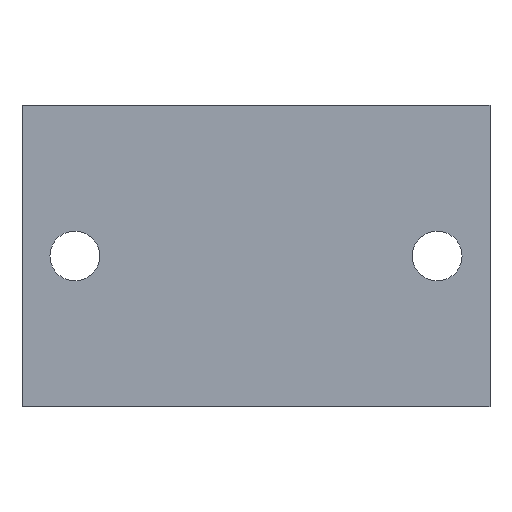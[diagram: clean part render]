
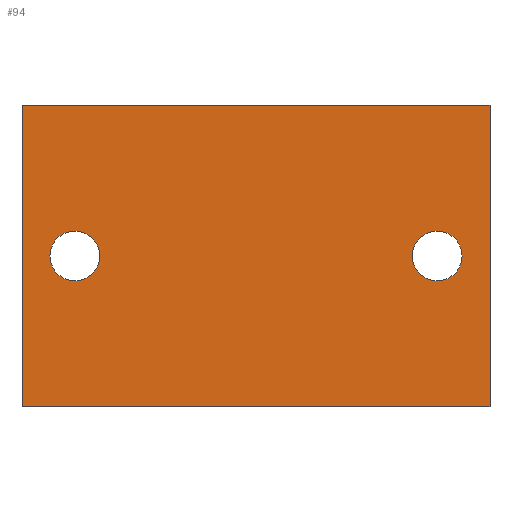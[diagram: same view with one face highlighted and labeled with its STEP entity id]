
A CAD part, front view. The second image highlights one B-rep face of the part: STEP entity #94.
In plain terms, the highlighted planar face has unit normal (0, -1, 0).
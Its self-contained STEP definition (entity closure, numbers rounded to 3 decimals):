
#2 = FACE_BOUND ( 'NONE', #689, .T. ) ;
#4 = DIRECTION ( 'NONE',  ( 0., -1., 0. ) ) ;
#6 = ORIENTED_EDGE ( 'NONE', *, *, #858, .T. ) ;
#10 = LINE ( 'NONE', #75, #17 ) ;
#11 = FACE_OUTER_BOUND ( 'NONE', #29, .T. ) ;
#17 = VECTOR ( 'NONE', #347, 1000. ) ;
#29 = EDGE_LOOP ( 'NONE', ( #6, #77, #419, #745 ) ) ;
#40 = AXIS2_PLACEMENT_3D ( 'NONE', #853, #659, #380 ) ;
#44 = CARTESIAN_POINT ( 'NONE',  ( 31., -27., -20. ) ) ;
#59 = DIRECTION ( 'NONE',  ( 0., 0., -1. ) ) ;
#72 = DIRECTION ( 'NONE',  ( 0., 0., -1. ) ) ;
#75 = CARTESIAN_POINT ( 'NONE',  ( -31., -27., -20. ) ) ;
#77 = ORIENTED_EDGE ( 'NONE', *, *, #761, .F. ) ;
#86 = CIRCLE ( 'NONE', #40, 3.3 ) ;
#91 = EDGE_CURVE ( 'NONE', #236, #358, #678, .T. ) ;
#94 = ADVANCED_FACE ( 'NONE', ( #2, #682, #11 ), #287, .F. ) ;
#117 = CARTESIAN_POINT ( 'NONE',  ( 24., -27., 3.3 ) ) ;
#149 = VERTEX_POINT ( 'NONE', #359 ) ;
#163 = AXIS2_PLACEMENT_3D ( 'NONE', #456, #467, #59 ) ;
#166 = CARTESIAN_POINT ( 'NONE',  ( -31., -27., -20. ) ) ;
#184 = LINE ( 'NONE', #194, #195 ) ;
#194 = CARTESIAN_POINT ( 'NONE',  ( 31., -27., 20. ) ) ;
#195 = VECTOR ( 'NONE', #803, 1000. ) ;
#199 = CIRCLE ( 'NONE', #366, 3.3 ) ;
#204 = CARTESIAN_POINT ( 'NONE',  ( -31., -27., 20. ) ) ;
#236 = VERTEX_POINT ( 'NONE', #581 ) ;
#237 = EDGE_CURVE ( 'NONE', #552, #854, #86, .T. ) ;
#250 = VERTEX_POINT ( 'NONE', #44 ) ;
#252 = CARTESIAN_POINT ( 'NONE',  ( -24., -27., 0. ) ) ;
#254 = CARTESIAN_POINT ( 'NONE',  ( 24., -27., -3.3 ) ) ;
#255 = CARTESIAN_POINT ( 'NONE',  ( -31., -27., 20. ) ) ;
#264 = EDGE_CURVE ( 'NONE', #236, #149, #513, .T. ) ;
#287 = PLANE ( 'NONE',  #814 ) ;
#340 = EDGE_CURVE ( 'NONE', #854, #552, #199, .T. ) ;
#347 = DIRECTION ( 'NONE',  ( 1., 0., 0. ) ) ;
#351 = DIRECTION ( 'NONE',  ( 0., 0., -1. ) ) ;
#358 = VERTEX_POINT ( 'NONE', #166 ) ;
#359 = CARTESIAN_POINT ( 'NONE',  ( 31., -27., 20. ) ) ;
#366 = AXIS2_PLACEMENT_3D ( 'NONE', #252, #773, #768 ) ;
#380 = DIRECTION ( 'NONE',  ( 0., 0., -1. ) ) ;
#382 = ORIENTED_EDGE ( 'NONE', *, *, #340, .F. ) ;
#419 = ORIENTED_EDGE ( 'NONE', *, *, #264, .F. ) ;
#432 = CIRCLE ( 'NONE', #163, 3.3 ) ;
#441 = CIRCLE ( 'NONE', #594, 3.3 ) ;
#456 = CARTESIAN_POINT ( 'NONE',  ( 24., -27., 0. ) ) ;
#467 = DIRECTION ( 'NONE',  ( 0., -1., 0. ) ) ;
#483 = DIRECTION ( 'NONE',  ( 0., 0., 1. ) ) ;
#497 = VERTEX_POINT ( 'NONE', #117 ) ;
#513 = LINE ( 'NONE', #255, #517 ) ;
#517 = VECTOR ( 'NONE', #790, 1000. ) ;
#534 = ORIENTED_EDGE ( 'NONE', *, *, #237, .F. ) ;
#552 = VERTEX_POINT ( 'NONE', #565 ) ;
#555 = VECTOR ( 'NONE', #72, 1000. ) ;
#565 = CARTESIAN_POINT ( 'NONE',  ( -24., -27., -3.3 ) ) ;
#581 = CARTESIAN_POINT ( 'NONE',  ( -31., -27., 20. ) ) ;
#594 = AXIS2_PLACEMENT_3D ( 'NONE', #614, #4, #351 ) ;
#610 = EDGE_LOOP ( 'NONE', ( #832, #697 ) ) ;
#614 = CARTESIAN_POINT ( 'NONE',  ( 24., -27., 0. ) ) ;
#625 = VERTEX_POINT ( 'NONE', #254 ) ;
#659 = DIRECTION ( 'NONE',  ( 0., -1., 0. ) ) ;
#678 = LINE ( 'NONE', #804, #555 ) ;
#682 = FACE_BOUND ( 'NONE', #610, .T. ) ;
#689 = EDGE_LOOP ( 'NONE', ( #534, #382 ) ) ;
#697 = ORIENTED_EDGE ( 'NONE', *, *, #872, .F. ) ;
#745 = ORIENTED_EDGE ( 'NONE', *, *, #91, .T. ) ;
#761 = EDGE_CURVE ( 'NONE', #149, #250, #184, .T. ) ;
#767 = EDGE_CURVE ( 'NONE', #625, #497, #432, .T. ) ;
#768 = DIRECTION ( 'NONE',  ( 0., 0., -1. ) ) ;
#773 = DIRECTION ( 'NONE',  ( 0., -1., 0. ) ) ;
#790 = DIRECTION ( 'NONE',  ( 1., 0., 0. ) ) ;
#803 = DIRECTION ( 'NONE',  ( 0., 0., -1. ) ) ;
#804 = CARTESIAN_POINT ( 'NONE',  ( -31., -27., 20. ) ) ;
#811 = CARTESIAN_POINT ( 'NONE',  ( -24., -27., 3.3 ) ) ;
#814 = AXIS2_PLACEMENT_3D ( 'NONE', #204, #822, #483 ) ;
#822 = DIRECTION ( 'NONE',  ( 0., 1., 0. ) ) ;
#832 = ORIENTED_EDGE ( 'NONE', *, *, #767, .F. ) ;
#853 = CARTESIAN_POINT ( 'NONE',  ( -24., -27., 0. ) ) ;
#854 = VERTEX_POINT ( 'NONE', #811 ) ;
#858 = EDGE_CURVE ( 'NONE', #358, #250, #10, .T. ) ;
#872 = EDGE_CURVE ( 'NONE', #497, #625, #441, .T. ) ;
